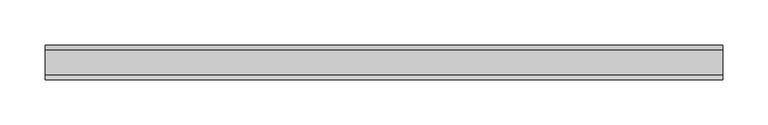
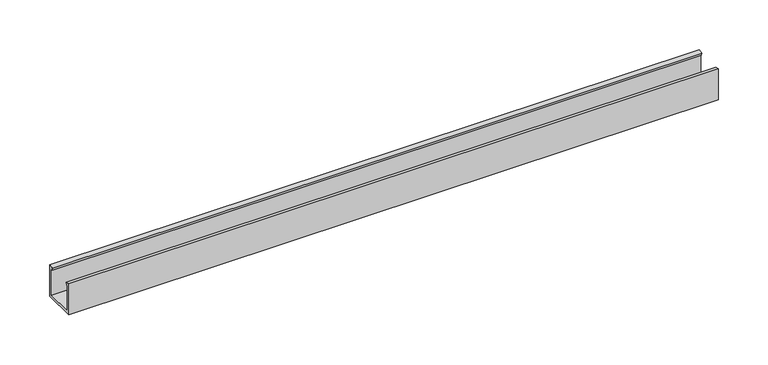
"""IFC4 building model written with IfcOpenShell, lengths in millimetres: cable carrier fitting geometry, x. Perfilado38_para suportes : Perfilado38_para suportes."""

from ifc_helpers import new_model, si_unit, frame, origin, place, context, project, spatial, polyline, outline, extrude, source, transform, mapped, element, save


def cable_carrier_fitting_5147b0eb(model_context):
    return source(origin(), model_context, "Body", "SweptSolid", [
        extrude(outline(polyline([(-19.0, -2.0), (-14.0093636, -3.2443054), (-14.7351293, -6.1551926), (-16.0, -5.8398249), (-16.0, -37.0), (16.0, -37.0), (16.0, -5.8398249), (14.7811379, -6.1437214), (14.0553722, -3.2328342), (19.0, -2.0), (19.0, -40.0), (-19.0, -40.0), (-19.0, -2.0)])), frame((-375.0, 0.0, 0.0), z_axis=(1.0, 0.0, 0.0), x_axis=(0.0, 1.0, 0.0)), (0.0, 0.0, 1.0), 750.0),
    ])


if __name__ == "__main__":
    model = new_model("IFC4")
    model_context = context("Model", 3, world=origin())
    ifc_project = project(units=[si_unit("LENGTHUNIT", "METRE", prefix="MILLI")], contexts=[model_context])
    site = spatial("IfcSite", under=ifc_project)
    building = spatial("IfcBuilding", under=site)
    placement = place(None, origin())
    cable_carrier_fitting_shape = cable_carrier_fitting_5147b0eb(model_context)
    element("IfcCableCarrierFitting", 1, ObjectType="x. Perfilado38_para suportes : Perfilado38_para suportes", at=placement, inside=building, context=model_context, shape_type="MappedRepresentation", body=[
        mapped(cable_carrier_fitting_shape, transform((0.0, 0.0, 0.0), x_axis=(1.0, 0.0, 0.0), y_axis=(0.0, 1.0, 0.0), z_axis=(0.0, 0.0, 1.0))),
    ])
    save(model, "model.ifc")
